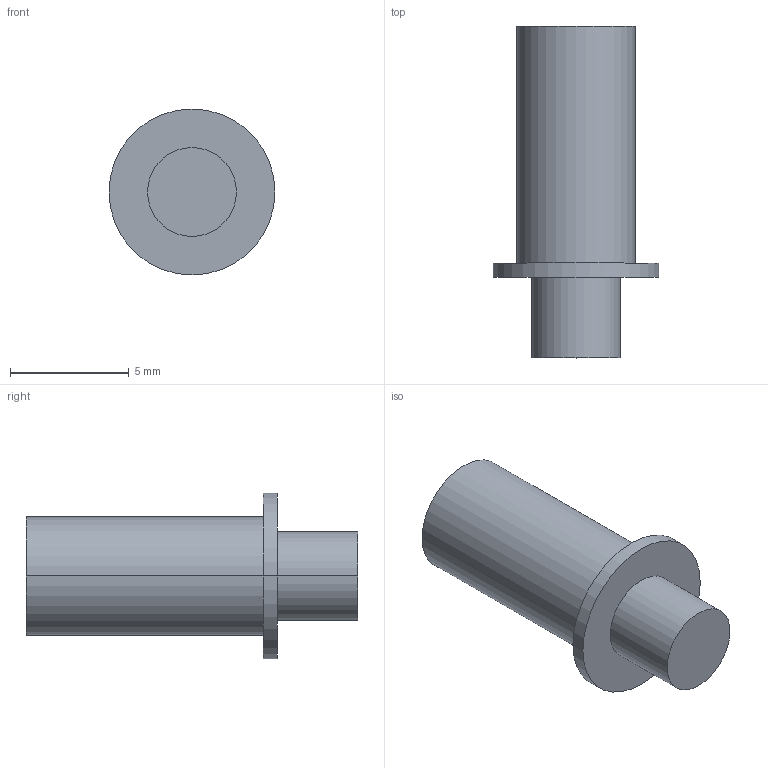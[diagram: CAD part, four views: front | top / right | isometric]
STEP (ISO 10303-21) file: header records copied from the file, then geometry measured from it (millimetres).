
FILE_DESCRIPTION (( 'STEP AP214' ), '1' );
FILE_NAME ('Frontpuffer_D5_gefedert 4mm.step', '2010-10-15T08:27:13', ( 'grass' ), ( '' ), 'SwSTEP 2.0', 'SolidWorks 2010', '' );
FILE_SCHEMA (( 'AUTOMOTIVE_DESIGN' ));
Length unit declared in the file: millimetre
Products named in the file (1): Frontpuffer_D5_gefedert 4mm
Bounding box: 7 x 14 x 7 mm (x, y, z)
Volume: 257 mm3; surface area: 287.3 mm2
Topology: 1 solids, 1 shells, 10 faces, 18 edges, 12 vertices
Faces by surface type: cylinder 6, plane 4
Entity records: 288 total; most frequent: DIRECTION 52, CARTESIAN_POINT 41, ORIENTED_EDGE 36, AXIS2_PLACEMENT_3D 23, EDGE_CURVE 18, EDGE_LOOP 12, CIRCLE 12, VERTEX_POINT 12
